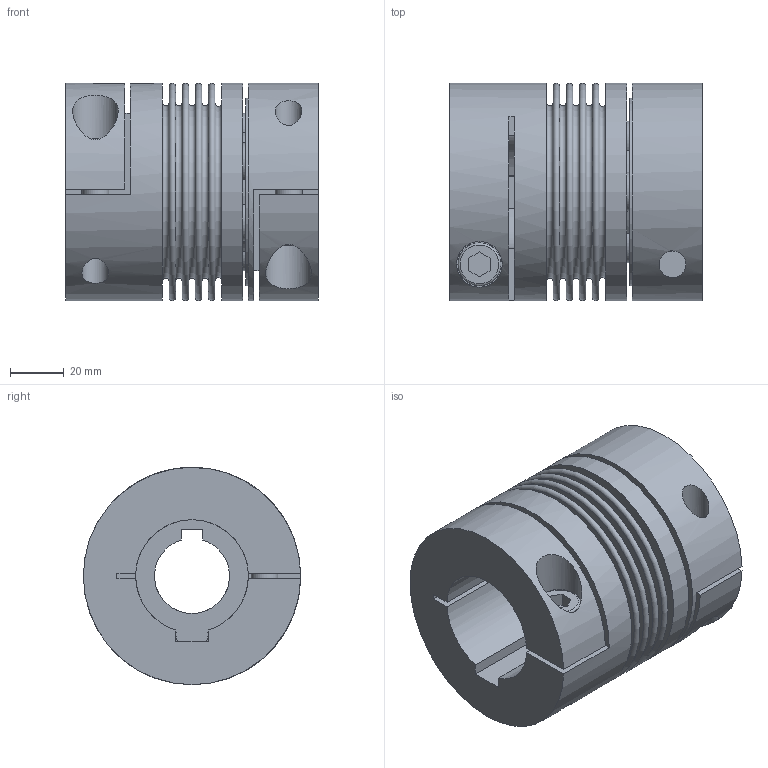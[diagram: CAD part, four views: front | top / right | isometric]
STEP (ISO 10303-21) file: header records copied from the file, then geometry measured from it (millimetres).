
FILE_DESCRIPTION(/* description */ ('STEP AP214'),/* implementation_level */ '2;1');
FILE_NAME(/* name */ 'C:\Diequa Files\DieQua Coupling\BCB\STP\BCB.80.94.#.#.stp',/* time_stamp */ '2018-11-26T11:47:32-06:00',/* author */ ('DiequaCAD'),/* organization */ (''),/* preprocessor_version */ 'ST-DEVELOPER v17.2',/* originating_system */ 'Autodesk Inventor 2019',/* authorisation */ ' ');
FILE_SCHEMA (('AUTOMOTIVE_DESIGN { 1 0 10303 214 3 1 1 }'));
Length unit declared in the file: millimetre
Products named in the file (3): BK5_80_94_42_PFN_28_PFN_82; 2018_11_09__18-07-13-905; 2018_11_09__18-07-13-905_1
Assembly tree (2 placements, depth 2):
  BK5_80_94_42_PFN_28_PFN_82
    2018_11_09__18-07-13-905
    2018_11_09__18-07-13-905_1
Bounding box: 94 x 81 x 81 mm (x, y, z)
Volume: 316189.2 mm3; surface area: 89146.4 mm2
Topology: 2 solids, 2 shells, 117 faces, 297 edges, 205 vertices
Faces by surface type: plane 61, cone 24, cylinder 21, torus 11
Full cylindrical faces by diameter (mm): 10 x4, 16 x2, 17 x2, 59 x1, 68 x1, 70 x1, 81 x3
Entity records: 3926 total; most frequent: CARTESIAN_POINT 847, DIRECTION 657, ORIENTED_EDGE 594, EDGE_CURVE 297, AXIS2_PLACEMENT_3D 269, VERTEX_POINT 205, CIRCLE 147, EDGE_LOOP 146
